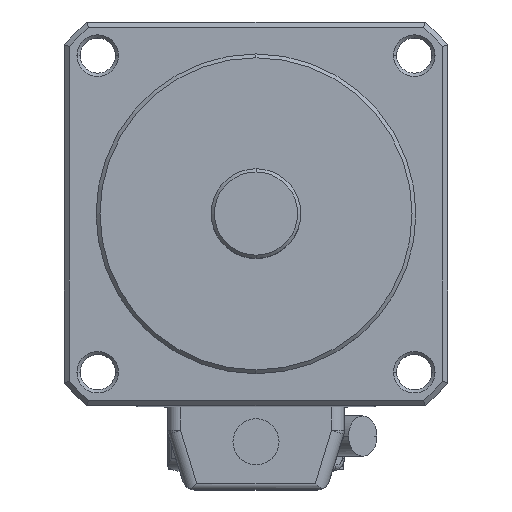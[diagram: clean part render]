
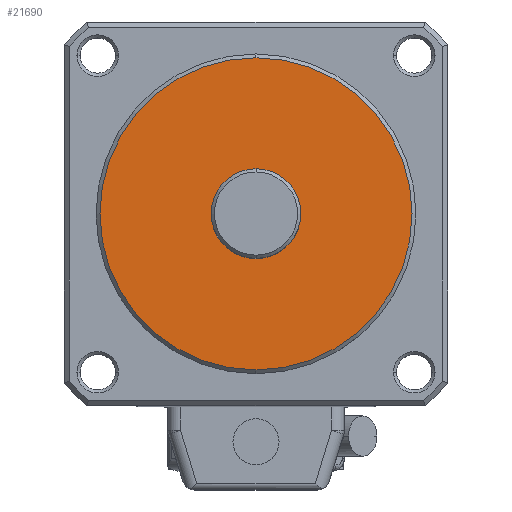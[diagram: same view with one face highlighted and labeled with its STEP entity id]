
A CAD part, top view. The second image highlights one B-rep face of the part: STEP entity #21690.
In plain terms, the highlighted planar face has unit normal (0, 0, 1).
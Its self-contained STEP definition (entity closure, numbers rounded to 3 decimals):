
#21300=CARTESIAN_POINT('',(-24.4,-24.4,25.));
#21310=DIRECTION('',(0.,0.,1.));
#21320=DIRECTION('',(1.,0.,0.));
#21330=AXIS2_PLACEMENT_3D('',#21300,#21310,#21320);
#21340=PLANE('',#21330);
#21350=CARTESIAN_POINT('',(0.,0.,25.
));
#21360=DIRECTION('',(0.,0.,1.));
#21370=DIRECTION('',(1.,0.,0.));
#21380=AXIS2_PLACEMENT_3D('',#21350,#21360,#21370);
#21390=CIRCLE('',#21380,7.);
#21400=CARTESIAN_POINT('',(7.,0.,25.));
#21410=VERTEX_POINT('',#21400);
#21420=CARTESIAN_POINT('',(-7.,0.,25.));
#21430=VERTEX_POINT('',#21420);
#21440=EDGE_CURVE('',#21410,#21430,#21390,.T.);
#21450=ORIENTED_EDGE('',*,*,#21440,.F.);
#21460=EDGE_CURVE('',#21430,#21410,#21390,.T.);
#21470=ORIENTED_EDGE('',*,*,#21460,.F.);
#21480=EDGE_LOOP('',(#21470,#21450));
#21490=FACE_BOUND('',#21480,.T.);
#21500=CARTESIAN_POINT('',(0.,0.,
25.));
#21510=DIRECTION('',(0.,0.,1.));
#21520=DIRECTION('',(0.,-1.,0.));
#21530=AXIS2_PLACEMENT_3D('',#21500,#21510,#21520);
#21540=CIRCLE('',#21530,24.4);
#21550=CARTESIAN_POINT('',(0.,24.4,25.));
#21560=VERTEX_POINT('',#21550);
#21570=CARTESIAN_POINT('',(0.,-24.4,25.));
#21580=VERTEX_POINT('',#21570);
#21590=EDGE_CURVE('',#21560,#21580,#21540,.T.);
#21600=ORIENTED_EDGE('',*,*,#21590,.T.);
#21610=CARTESIAN_POINT('',(24.4,0.,25.));
#21620=VERTEX_POINT('',#21610);
#21630=EDGE_CURVE('',#21620,#21560,#21540,.T.);
#21640=ORIENTED_EDGE('',*,*,#21630,.T.);
#21650=EDGE_CURVE('',#21580,#21620,#21540,.T.);
#21660=ORIENTED_EDGE('',*,*,#21650,.T.);
#21670=EDGE_LOOP('',(#21660,#21640,#21600));
#21680=FACE_OUTER_BOUND('',#21670,.T.);
#21690=ADVANCED_FACE('',(#21490,#21680),#21340,.T.);
